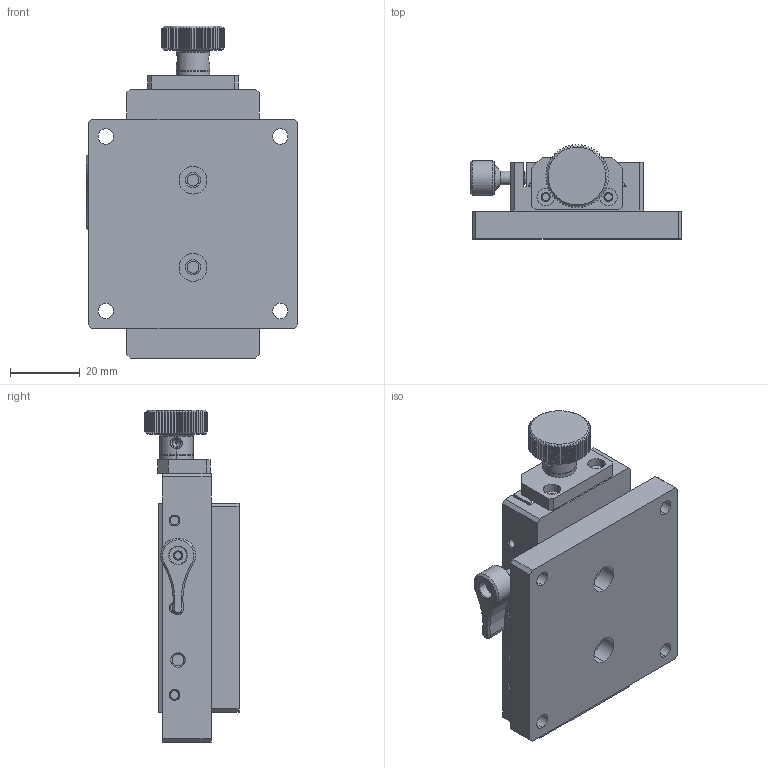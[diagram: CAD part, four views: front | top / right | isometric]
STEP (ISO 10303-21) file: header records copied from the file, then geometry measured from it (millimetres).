
FILE_DESCRIPTION((''),'2;1');
FILE_NAME('ASSY-30-L_ASM','2022-06-29T16:13:35',('windows10'),(''),'CREO PARAMETRIC BY PTC INC, 2018260','CREO PARAMETRIC BY PTC INC, 2018260','');
FILE_SCHEMA(('CONFIG_CONTROL_DESIGN'));
Length unit declared in the file: millimetre
Products named in the file (11): BASE-60-60-8-2HOLE; BOTTOM-38-77-15-F; TOP-28-60-15-M; HOLDER-HANDLE-30; MOVING-SCREW-M3-35; WHASHER; HANDLE-18-13; STOPPER-7H-M4-12D6; LEVER-7H; E-RING-3-7; ASSY-30-L_ASM
Assembly tree (10 placements, depth 2):
  ASSY-30-L_ASM
    BASE-60-60-8-2HOLE
    BOTTOM-38-77-15-F
    TOP-28-60-15-M
    HOLDER-HANDLE-30
    MOVING-SCREW-M3-35
    WHASHER
    HANDLE-18-13
    STOPPER-7H-M4-12D6
    LEVER-7H
    E-RING-3-7
Bounding box: 60.6 x 26.99 x 95.2 mm (x, y, z)
Volume: 67967.1 mm3; surface area: 30867 mm2
Topology: 10 solids, 10 shells, 521 faces, 1350 edges, 868 vertices
Faces by surface type: plane 229, cylinder 202, cone 86, bspline 4
Entity records: 17303 total; most frequent: CARTESIAN_POINT 4379, ORIENTED_EDGE 2700, DIRECTION 2616, EDGE_CURVE 1350, AXIS2_PLACEMENT_3D 1014, VERTEX_POINT 868, EDGE_LOOP 592, VECTOR 588
